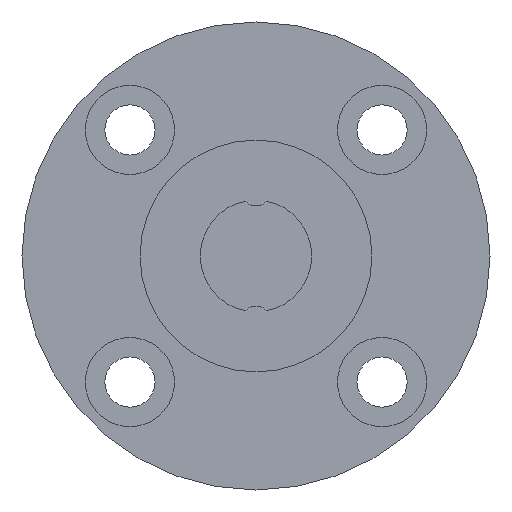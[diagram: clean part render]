
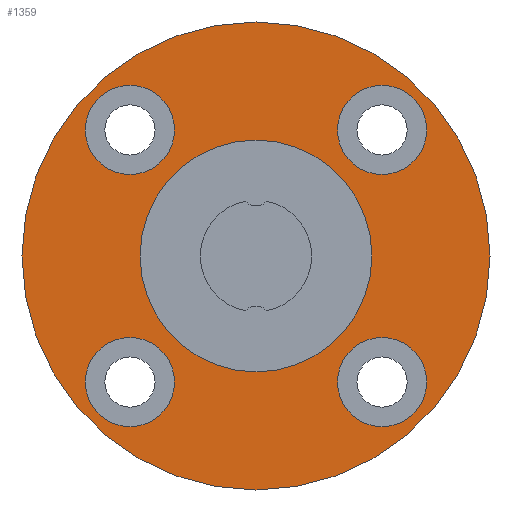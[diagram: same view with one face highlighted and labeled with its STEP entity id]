
A CAD part, left-side view. The second image highlights one B-rep face of the part: STEP entity #1359.
In plain terms, the highlighted planar face has unit normal (-1, 0, 0).
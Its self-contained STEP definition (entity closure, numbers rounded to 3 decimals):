
#357=CARTESIAN_POINT('',(8.,-11.314,-7.314));
#358=VERTEX_POINT('',#357);
#359=CARTESIAN_POINT('',(8.,-11.314,-11.314));
#360=DIRECTION('',(1.0,0.0,0.0));
#361=DIRECTION('',(0.0,0.0,1.0));
#362=AXIS2_PLACEMENT_3D('',#359,#360,#361);
#363=CIRCLE('',#362,4.0);
#364=EDGE_CURVE('',#358,#358,#363,.T.);
#467=CARTESIAN_POINT('',(8.,11.314,-7.314));
#468=VERTEX_POINT('',#467);
#469=CARTESIAN_POINT('',(8.,11.314,-11.314));
#470=DIRECTION('',(1.0,0.0,0.0));
#471=DIRECTION('',(0.0,0.0,1.0));
#472=AXIS2_PLACEMENT_3D('',#469,#470,#471);
#473=CIRCLE('',#472,4.0);
#474=EDGE_CURVE('',#468,#468,#473,.T.);
#577=CARTESIAN_POINT('',(8.0,11.314,15.314));
#578=VERTEX_POINT('',#577);
#579=CARTESIAN_POINT('',(8.,11.314,11.314));
#580=DIRECTION('',(1.0,0.0,0.0));
#581=DIRECTION('',(0.0,0.0,1.0));
#582=AXIS2_PLACEMENT_3D('',#579,#580,#581);
#583=CIRCLE('',#582,4.0);
#584=EDGE_CURVE('',#578,#578,#583,.T.);
#687=CARTESIAN_POINT('',(8.0,-11.314,15.314));
#688=VERTEX_POINT('',#687);
#689=CARTESIAN_POINT('',(8.,-11.314,11.314));
#690=DIRECTION('',(1.0,0.0,0.0));
#691=DIRECTION('',(0.0,0.0,1.0));
#692=AXIS2_PLACEMENT_3D('',#689,#690,#691);
#693=CIRCLE('',#692,4.0);
#694=EDGE_CURVE('',#688,#688,#693,.T.);
#1313=CARTESIAN_POINT('',(8.,0.0,21.0));
#1314=VERTEX_POINT('',#1313);
#1315=CARTESIAN_POINT('',(8.,0.0,0.));
#1316=DIRECTION('',(-1.0,0.0,0.0));
#1317=DIRECTION('',(0.0,0.0,1.0));
#1318=AXIS2_PLACEMENT_3D('',#1315,#1316,#1317);
#1319=CIRCLE('',#1318,21.);
#1320=EDGE_CURVE('',#1314,#1314,#1319,.T.);
#1328=CARTESIAN_POINT('',(8.0,0.0,15.7));
#1329=DIRECTION('',(-1.0,0.0,0.0));
#1330=DIRECTION('',(0.0,0.0,1.0));
#1331=AXIS2_PLACEMENT_3D('',#1328,#1329,#1330);
#1332=PLANE('',#1331);
#1333=ORIENTED_EDGE('',*,*,#1320,.T.);
#1334=EDGE_LOOP('',(#1333));
#1335=FACE_OUTER_BOUND('',#1334,.T.);
#1336=ORIENTED_EDGE('',*,*,#364,.T.);
#1337=EDGE_LOOP('',(#1336));
#1338=FACE_BOUND('',#1337,.T.);
#1339=ORIENTED_EDGE('',*,*,#474,.T.);
#1340=EDGE_LOOP('',(#1339));
#1341=FACE_BOUND('',#1340,.T.);
#1342=ORIENTED_EDGE('',*,*,#584,.T.);
#1343=EDGE_LOOP('',(#1342));
#1344=FACE_BOUND('',#1343,.T.);
#1345=ORIENTED_EDGE('',*,*,#694,.T.);
#1346=EDGE_LOOP('',(#1345));
#1347=FACE_BOUND('',#1346,.T.);
#1348=CARTESIAN_POINT('',(8.0,0.0,10.4));
#1349=VERTEX_POINT('',#1348);
#1350=CARTESIAN_POINT('',(8.,0.0,0.));
#1351=DIRECTION('',(-1.0,0.0,0.0));
#1352=DIRECTION('',(0.0,0.0,1.0));
#1353=AXIS2_PLACEMENT_3D('',#1350,#1351,#1352);
#1354=CIRCLE('',#1353,10.4);
#1355=EDGE_CURVE('',#1349,#1349,#1354,.T.);
#1356=ORIENTED_EDGE('',*,*,#1355,.F.);
#1357=EDGE_LOOP('',(#1356));
#1358=FACE_BOUND('',#1357,.T.);
#1359=ADVANCED_FACE('',(#1335,#1338,#1341,#1344,#1347,#1358),#1332,.T.);
